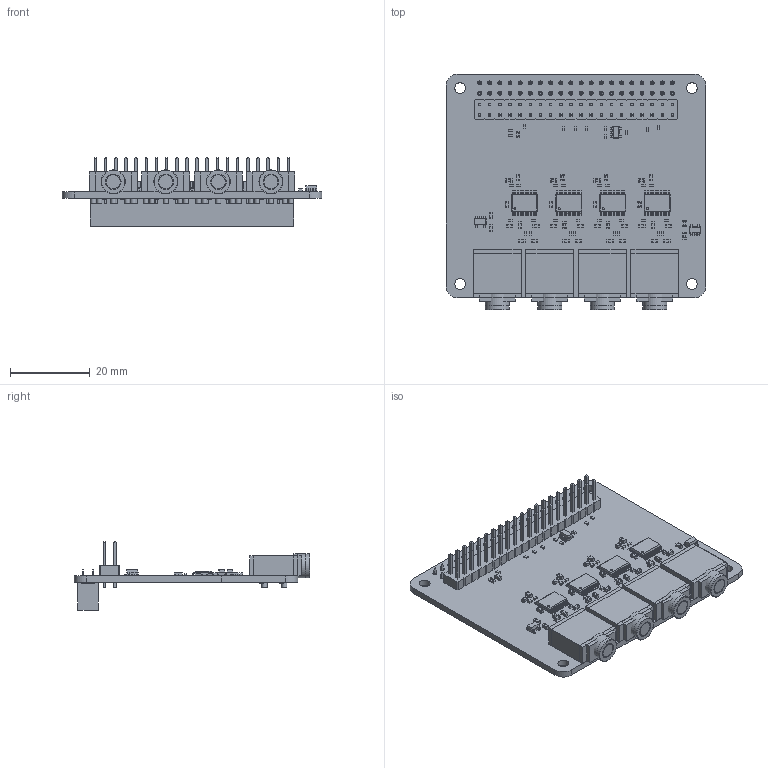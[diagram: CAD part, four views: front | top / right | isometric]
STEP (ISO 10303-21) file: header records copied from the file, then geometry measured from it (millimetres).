
FILE_DESCRIPTION(('FreeCAD Model'),'2;1');
FILE_NAME('Open CASCADE Shape Model','2024-03-12T10:50:31',( 'Joerg Schambacher'),('HiFiBerry Deutschland GmbH'), 'Open CASCADE STEP processor 7.6','FreeCAD','Unknown');
FILE_SCHEMA(('AUTOMOTIVE_DESIGN { 1 0 10303 214 1 1 1 1 }'));
Length unit declared in the file: millimetre
Products named in the file (109): board_dac_8x; Board_Geoms_52b5; Pcb_52b5; Step_Models_52b5; Top_52b5; U2_TSSOP_20_44x65mm_P065mm_69a7abd58dbd; C27_C_0603_1608Metric_93f57e85dfbd; R6_R_0402_1005Metric_d377df4f6e6f; J5_ASSEMBLY_85704f16f372; Chamfer; Fillet006; Fillet001; Fillet002; Fillet003; Fillet004; Fillet005; Pocket; Fillet011; Fillet; Fillet007; Fillet008; Fillet009; Fillet010; Fillet017; Fillet012; Fillet013; Fillet014; Fillet015; Fillet016; Chamfer009; Chamfer004; Chamfer005; Chamfer006; Chamfer007; Chamfer008; Fillet023; Fillet018; Fillet019; Fillet020; Fillet021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
Assembly tree (188 placements, depth 6):
  board_dac_8x
    Board_Geoms_52b5
      Pcb_52b5
    Step_Models_52b5
      Top_52b5
        U2_TSSOP_20_44x65mm_P065mm_69a7abd58dbd  x4
        C27_C_0603_1608Metric_93f57e85dfbd  x37
        R6_R_0402_1005Metric_d377df4f6e6f  x18
        J5_ASSEMBLY_85704f16f372  x4
          Chamfer
          Fillet006
            Fillet001
            Fillet002
            Fillet003
            Fillet004
            Fillet005
          Pocket
          Fillet011
            Fillet
            Fillet007
            Fillet008
            Fillet009
            Fillet010
          Fillet017
            Fillet012
            Fillet013
            Fillet014
            Fillet015
            Fillet016
          Chamfer009
            Chamfer004
            Chamfer005
            Chamfer006
            Chamfer007
            Chamfer008
          Fillet023
            Fillet018
            Fillet019
            Fillet020
            Fillet021
            Fillet022
          Chamfer014
            Chamfer002
            Chamfer010
            Chamfer011
            Chamfer012
            Chamfer013
          Chamfer020
            Chamfer015
            Chamfer016
            Chamfer017
            Chamfer018
            Chamfer019
          Chamfer026
            Chamfer021
            Chamfer022
            Chamfer023
            Chamfer024
            Chamfer025
          Chamfer031
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Bounding box: 65 x 59 x 17.14 mm (x, y, z)
Volume: 15443.2 mm3; surface area: 22285 mm2
Topology: 394 solids, 394 shells, 7008 faces, 16492 edges, 10584 vertices
Faces by surface type: plane 5001, cylinder 1612, bspline 263, cone 72, torus 60
Full cylindrical faces by diameter (mm): 0.5 x4, 1 x80, 1.3 x104, 1.305 x4, 1.31 x48, 1.356 x4, 1.562 x28, 1.6 x124, 2.7 x4, 3.5 x12, 6 x24
Entity records: 108417 total; most frequent: CARTESIAN_POINT 15485, ORIENTED_EDGE 14636, DIRECTION 14286, EDGE_CURVE 7318, LINE 6530, VECTOR 6530, VERTEX_POINT 4657, AXIS2_PLACEMENT_3D 3878
